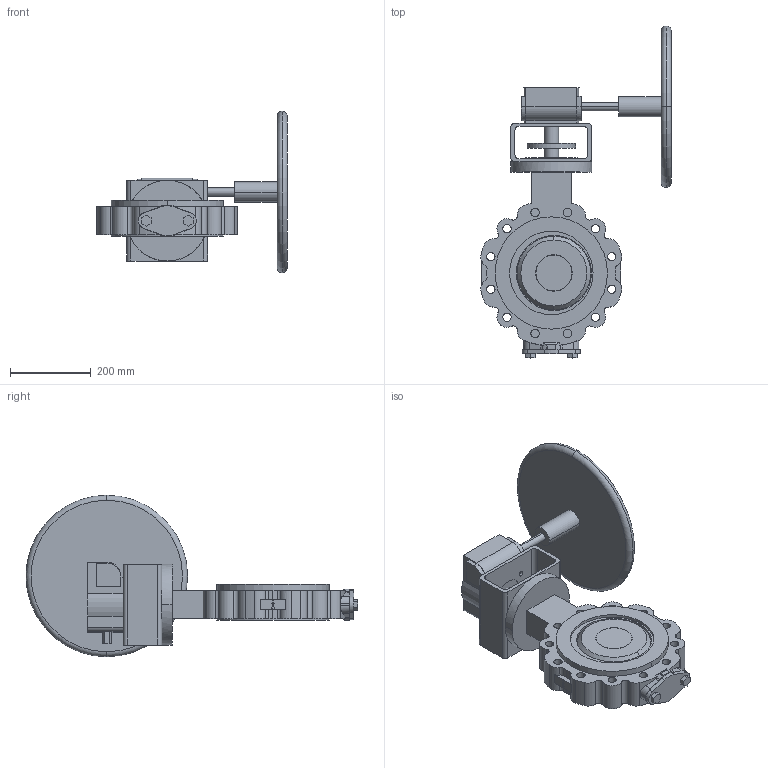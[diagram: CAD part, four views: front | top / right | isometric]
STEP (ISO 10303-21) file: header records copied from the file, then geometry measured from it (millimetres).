
FILE_DESCRIPTION( ( '' ), '1' );
FILE_NAME( 'F:/DE-SHS/TB/OR/04-Sonstiges/daten/Excel/mneugeba/018_ZETRIX-PN25_Getriebe-Rotork/c000006443.stp', '2016-09-19T06:33:51', ( '' ), ( '' ), ' ', ' ', ' ' );
FILE_SCHEMA( ( 'CONFIG_CONTROL_DESIGN' ) );
Length unit declared in the file: millimetre
Products named in the file (2): 1; 2
Bounding box: 471.69 x 821.9 x 400 mm (x, y, z)
Volume: 13827257.8 mm3; surface area: 1118103.1 mm2
Topology: 2 solids, 2 shells, 347 faces, 924 edges, 613 vertices
Faces by surface type: cylinder 189, plane 148, cone 4, torus 4, sphere 2
Entity records: 11865 total; most frequent: CARTESIAN_POINT 2686, DIRECTION 2017, ORIENTED_EDGE 1848, EDGE_CURVE 924, AXIS2_PLACEMENT_3D 776, VERTEX_POINT 613, LINE 465, VECTOR 465
